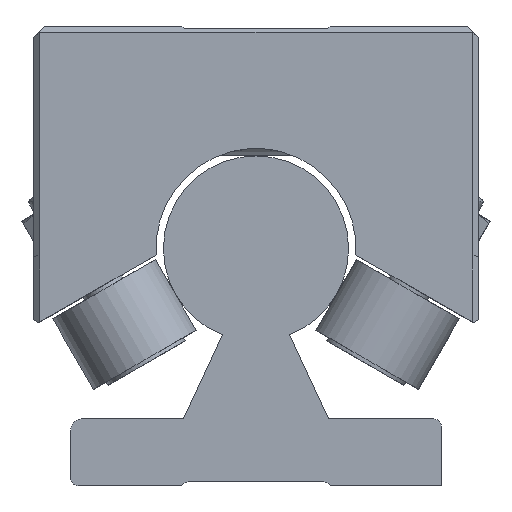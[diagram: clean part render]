
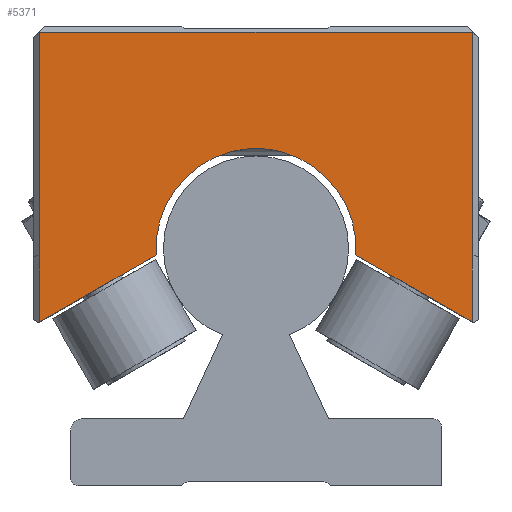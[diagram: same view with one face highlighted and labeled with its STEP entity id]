
A CAD part, left-side view. The second image highlights one B-rep face of the part: STEP entity #5371.
In plain terms, the highlighted planar face has unit normal (-1, 0, 0).
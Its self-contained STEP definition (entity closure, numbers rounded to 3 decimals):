
#5252=CARTESIAN_POINT('',(260.802,29.2,22.07));
#5253=VERTEX_POINT('',#5252);
#5260=CARTESIAN_POINT('',(260.802,29.2,61.2));
#5261=VERTEX_POINT('',#5260);
#5262=CARTESIAN_POINT('',(260.802,29.2,22.07));
#5263=DIRECTION('',(0.0,0.0,1.0));
#5264=VECTOR('',#5263,39.13);
#5265=LINE('',#5262,#5264);
#5266=EDGE_CURVE('',#5253,#5261,#5265,.T.);
#5324=CARTESIAN_POINT('',(260.802,20.,61.85));
#5325=DIRECTION('',(1.0,0.0,0.0));
#5326=DIRECTION('',(0.0,0.0,-1.0));
#5327=AXIS2_PLACEMENT_3D('',#5324,#5325,#5326);
#5328=PLANE('',#5327);
#5329=ORIENTED_EDGE('',*,*,#5266,.F.);
#5330=CARTESIAN_POINT('',(260.802,13.473,31.149));
#5331=VERTEX_POINT('',#5330);
#5332=CARTESIAN_POINT('',(260.802,13.473,31.149));
#5333=DIRECTION('',(0.0,0.866,-0.5));
#5334=VECTOR('',#5333,18.16);
#5335=LINE('',#5332,#5334);
#5336=EDGE_CURVE('',#5331,#5253,#5335,.T.);
#5337=ORIENTED_EDGE('',*,*,#5336,.F.);
#5338=CARTESIAN_POINT('',(260.802,-13.473,31.149));
#5339=VERTEX_POINT('',#5338);
#5340=CARTESIAN_POINT('',(260.802,0.,32.0));
#5341=DIRECTION('',(-1.0,0.0,0.0));
#5342=DIRECTION('',(0.0,-1.0,0.0));
#5343=AXIS2_PLACEMENT_3D('',#5340,#5341,#5342);
#5344=CIRCLE('',#5343,13.5);
#5345=EDGE_CURVE('',#5339,#5331,#5344,.T.);
#5346=ORIENTED_EDGE('',*,*,#5345,.F.);
#5347=CARTESIAN_POINT('',(260.802,-29.2,22.07));
#5348=VERTEX_POINT('',#5347);
#5349=CARTESIAN_POINT('',(260.802,-29.2,22.07));
#5350=DIRECTION('',(0.0,0.866,0.5));
#5351=VECTOR('',#5350,18.16);
#5352=LINE('',#5349,#5351);
#5353=EDGE_CURVE('',#5348,#5339,#5352,.T.);
#5354=ORIENTED_EDGE('',*,*,#5353,.F.);
#5355=CARTESIAN_POINT('',(260.802,-29.2,61.2));
#5356=VERTEX_POINT('',#5355);
#5357=CARTESIAN_POINT('',(260.802,-29.2,61.2));
#5358=DIRECTION('',(0.0,0.0,-1.0));
#5359=VECTOR('',#5358,39.13);
#5360=LINE('',#5357,#5359);
#5361=EDGE_CURVE('',#5356,#5348,#5360,.T.);
#5362=ORIENTED_EDGE('',*,*,#5361,.F.);
#5363=CARTESIAN_POINT('',(260.802,29.2,61.2));
#5364=DIRECTION('',(0.0,-1.0,0.0));
#5365=VECTOR('',#5364,58.4);
#5366=LINE('',#5363,#5365);
#5367=EDGE_CURVE('',#5261,#5356,#5366,.T.);
#5368=ORIENTED_EDGE('',*,*,#5367,.F.);
#5369=EDGE_LOOP('',(#5329,#5337,#5346,#5354,#5362,#5368));
#5370=FACE_OUTER_BOUND('',#5369,.T.);
#5371=ADVANCED_FACE('',(#5370),#5328,.F.);
